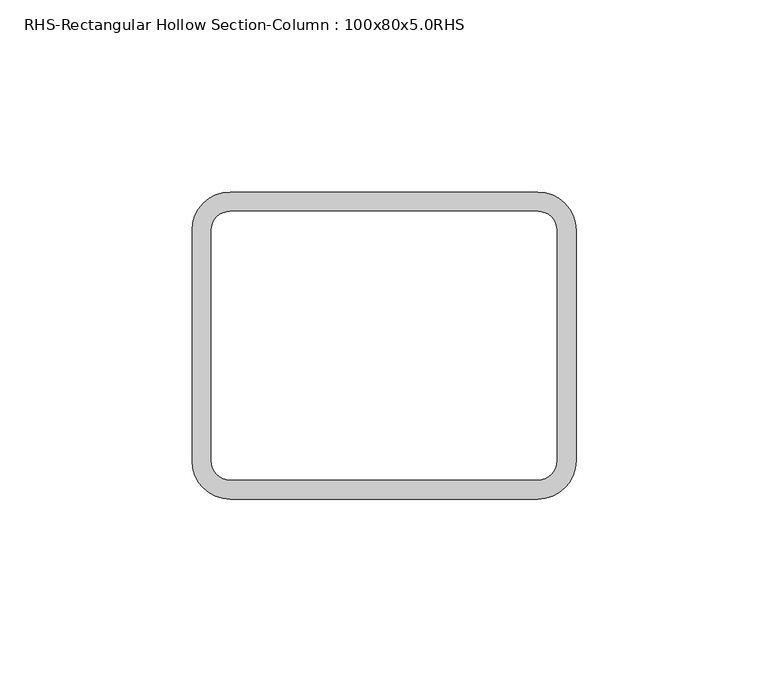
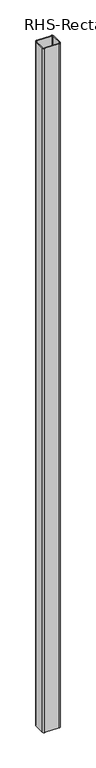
"""IFC4 building model written with IfcOpenShell, lengths in millimetres: column geometry, RHS-Rectangular Hollow Section-Column : 100x80x5.0RHS."""

from ifc_helpers import new_model, si_unit, point, frame, frame_2d, origin, place, context, project, spatial, polyline, circle_curve, trimmed, segment, composite_curve, outline, extrude, source, transform, mapped, element, save


def rhs_rectangular_hollow_section_column_100x80x5_0rhs_e8ea1d76(model_context):
    return source(origin(), model_context, "Body", "SweptSolid", [
        extrude(outline(composite_curve([segment(trimmed(circle_curve(frame_2d((40.0, 30.0)), 10.0), [point((40.0, 40.0))], [point((50.0, 30.0))], False, "CARTESIAN"), True, "CONTINUOUS"), segment(polyline([(50.0, 30.0), (50.0, -30.0)]), True, "CONTINUOUS"), segment(trimmed(circle_curve(frame_2d((40.0, -30.0)), 10.0), [point((50.0, -30.0))], [point((40.0, -40.0))], False, "CARTESIAN"), True, "CONTINUOUS"), segment(polyline([(40.0, -40.0), (-40.0, -40.0)]), True, "CONTINUOUS"), segment(trimmed(circle_curve(frame_2d((-40.0, -30.0)), 10.0), [point((-40.0, -40.0))], [point((-50.0, -30.0))], False, "CARTESIAN"), True, "CONTINUOUS"), segment(polyline([(-50.0, -30.0), (-50.0, 30.0)]), True, "CONTINUOUS"), segment(trimmed(circle_curve(frame_2d((-40.0, 30.0)), 10.0), [point((-50.0, 30.0))], [point((-40.0, 40.0))], False, "CARTESIAN"), True, "CONTINUOUS"), segment(polyline([(-40.0, 40.0), (40.0, 40.0)]), True, "CONTINUOUS")], self_intersect=False), holes=[composite_curve([segment(polyline([(40.0, 35.0), (-40.0, 35.0)]), True, "CONTINUOUS"), segment(trimmed(circle_curve(frame_2d((-40.0, 30.0)), 5.0), [point((-40.0, 35.0))], [point((-45.0, 30.0))], True, "CARTESIAN"), True, "CONTINUOUS"), segment(polyline([(-45.0, 30.0), (-45.0, -30.0)]), True, "CONTINUOUS"), segment(trimmed(circle_curve(frame_2d((-40.0, -30.0)), 5.0), [point((-45.0, -30.0))], [point((-40.0, -35.0))], True, "CARTESIAN"), True, "CONTINUOUS"), segment(polyline([(-40.0, -35.0), (40.0, -35.0)]), True, "CONTINUOUS"), segment(trimmed(circle_curve(frame_2d((40.0, -30.0)), 5.0), [point((40.0, -35.0))], [point((45.0, -30.0))], True, "CARTESIAN"), True, "CONTINUOUS"), segment(polyline([(45.0, -30.0), (45.0, 30.0)]), True, "CONTINUOUS"), segment(trimmed(circle_curve(frame_2d((40.0, 30.0)), 5.0), [point((45.0, 30.0))], [point((40.0, 35.0))], True, "CARTESIAN"), True, "CONTINUOUS")], self_intersect=False)]), frame((0.0, 0.0, 7120.0), z_axis=(0.0, 0.0, 1.0), x_axis=(1.0, 0.0, 0.0)), (0.0, 0.0, 1.0), 4040.0),
    ])


if __name__ == "__main__":
    model = new_model("IFC4")
    model_context = context("Model", 3, world=origin())
    ifc_project = project(units=[si_unit("LENGTHUNIT", "METRE", prefix="MILLI")], contexts=[model_context])
    site = spatial("IfcSite", under=ifc_project)
    building = spatial("IfcBuilding", under=site)
    placement = place(None, origin())
    rhs_rectangular_hollow_section_column_100x80x5_0rhs_shape = rhs_rectangular_hollow_section_column_100x80x5_0rhs_e8ea1d76(model_context)
    element("IfcColumn", 1, ObjectType="RHS-Rectangular Hollow Section-Column : 100x80x5.0RHS", at=placement, inside=building, context=model_context, shape_type="MappedRepresentation", body=[
        mapped(rhs_rectangular_hollow_section_column_100x80x5_0rhs_shape, transform((0.0, 0.0, 0.0), x_axis=(1.0, 0.0, 0.0), y_axis=(0.0, 1.0, 0.0), z_axis=(0.0, 0.0, 1.0))),
    ])
    save(model, "model.ifc")
